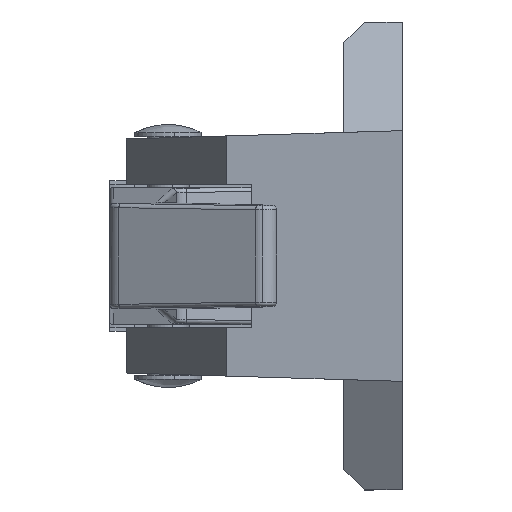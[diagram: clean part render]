
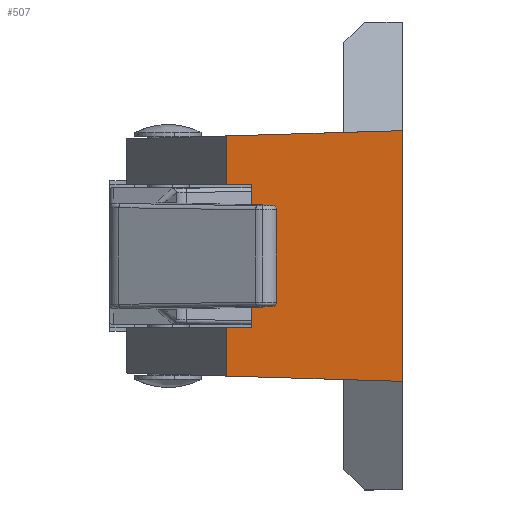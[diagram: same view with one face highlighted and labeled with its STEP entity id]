
A CAD part, left-side view. The second image highlights one B-rep face of the part: STEP entity #507.
In plain terms, the highlighted planar face has unit normal (-0.996, 0.09, 0).
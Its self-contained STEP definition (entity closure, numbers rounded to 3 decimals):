
#58 = LINE ( 'NONE', #2076, #3158 ) ;
#307 = VERTEX_POINT ( 'NONE', #4391 ) ;
#507 = ADVANCED_FACE ( 'NONE', ( #14954 ), #3067, .T. ) ;
#774 = EDGE_CURVE ( 'NONE', #12194, #15704, #10795, .T. ) ;
#1251 = EDGE_CURVE ( 'NONE', #3024, #307, #8461, .T. ) ;
#1354 = EDGE_CURVE ( 'NONE', #307, #1991, #14310, .T. ) ;
#1385 = ORIENTED_EDGE ( 'NONE', *, *, #4889, .T. ) ;
#1475 = EDGE_LOOP ( 'NONE', ( #5923, #1385, #4546, #3044, #1611, #5629, #9744, #4155 ) ) ;
#1611 = ORIENTED_EDGE ( 'NONE', *, *, #3830, .T. ) ;
#1733 = DIRECTION ( 'NONE',  ( -0.091, -0.996, 0. ) ) ;
#1977 = CARTESIAN_POINT ( 'NONE',  ( -33.364, 18., -8.5 ) ) ;
#1991 = VERTEX_POINT ( 'NONE', #1977 ) ;
#1996 = VERTEX_POINT ( 'NONE', #4645 ) ;
#2076 = CARTESIAN_POINT ( 'NONE',  ( -33.091, 21., -15. ) ) ;
#2213 = LINE ( 'NONE', #12782, #5727 ) ;
#2703 = CARTESIAN_POINT ( 'NONE',  ( -35., 0., 15. ) ) ;
#3024 = VERTEX_POINT ( 'NONE', #13037 ) ;
#3044 = ORIENTED_EDGE ( 'NONE', *, *, #1251, .F. ) ;
#3067 = PLANE ( 'NONE',  #15585 ) ;
#3124 = CARTESIAN_POINT ( 'NONE',  ( -34.713, 3.156, 0. ) ) ;
#3158 = VECTOR ( 'NONE', #16633, 1000. ) ;
#3506 = DIRECTION ( 'NONE',  ( 0.091, 0.996, 0. ) ) ;
#3830 = EDGE_CURVE ( 'NONE', #3024, #10785, #11997, .T. ) ;
#3897 = CARTESIAN_POINT ( 'NONE',  ( -35., 0., -15. ) ) ;
#4150 = VECTOR ( 'NONE', #5290, 1000. ) ;
#4155 = ORIENTED_EDGE ( 'NONE', *, *, #14918, .F. ) ;
#4391 = CARTESIAN_POINT ( 'NONE',  ( -33.091, 21., -8.5 ) ) ;
#4546 = ORIENTED_EDGE ( 'NONE', *, *, #1354, .F. ) ;
#4645 = CARTESIAN_POINT ( 'NONE',  ( -33.091, 21., 8.5 ) ) ;
#4889 = EDGE_CURVE ( 'NONE', #10776, #1991, #17153, .T. ) ;
#4997 = EDGE_CURVE ( 'NONE', #10776, #1996, #2213, .T. ) ;
#5290 = DIRECTION ( 'NONE',  ( -0.09, -0.995, 0.03 ) ) ;
#5524 = DIRECTION ( 'NONE',  ( -0.091, -0.996, 0. ) ) ;
#5629 = ORIENTED_EDGE ( 'NONE', *, *, #9036, .T. ) ;
#5727 = VECTOR ( 'NONE', #3506, 1000. ) ;
#5879 = DIRECTION ( 'NONE',  ( 0., 0., -1. ) ) ;
#5923 = ORIENTED_EDGE ( 'NONE', *, *, #4997, .F. ) ;
#6430 = DIRECTION ( 'NONE',  ( -0.09, -0.995, -0.03 ) ) ;
#6826 = CARTESIAN_POINT ( 'NONE',  ( -34.713, 3.156, -8.5 ) ) ;
#7860 = CARTESIAN_POINT ( 'NONE',  ( -32., 33., 14. ) ) ;
#8434 = VECTOR ( 'NONE', #6430, 1000. ) ;
#8461 = LINE ( 'NONE', #15988, #12415 ) ;
#9036 = EDGE_CURVE ( 'NONE', #10785, #15704, #9781, .T. ) ;
#9166 = CARTESIAN_POINT ( 'NONE',  ( -33.364, 18., 8.5 ) ) ;
#9295 = DIRECTION ( 'NONE',  ( 0., 0., 1. ) ) ;
#9744 = ORIENTED_EDGE ( 'NONE', *, *, #774, .F. ) ;
#9781 = LINE ( 'NONE', #13840, #12918 ) ;
#9883 = DIRECTION ( 'NONE',  ( 0., 0., 1. ) ) ;
#10515 = VECTOR ( 'NONE', #5879, 1000. ) ;
#10776 = VERTEX_POINT ( 'NONE', #9166 ) ;
#10785 = VERTEX_POINT ( 'NONE', #3897 ) ;
#10795 = LINE ( 'NONE', #7860, #4150 ) ;
#11010 = DIRECTION ( 'NONE',  ( -0.996, 0.091, 0. ) ) ;
#11711 = CARTESIAN_POINT ( 'NONE',  ( -32., 33., -14. ) ) ;
#11997 = LINE ( 'NONE', #11711, #8434 ) ;
#12194 = VERTEX_POINT ( 'NONE', #14832 ) ;
#12415 = VECTOR ( 'NONE', #9295, 1000. ) ;
#12541 = CARTESIAN_POINT ( 'NONE',  ( -33.364, 18., 0. ) ) ;
#12782 = CARTESIAN_POINT ( 'NONE',  ( -34.713, 3.156, 8.5 ) ) ;
#12918 = VECTOR ( 'NONE', #9883, 1000. ) ;
#13037 = CARTESIAN_POINT ( 'NONE',  ( -33.091, 21., -14.364 ) ) ;
#13840 = CARTESIAN_POINT ( 'NONE',  ( -35., 0., -15. ) ) ;
#13868 = VECTOR ( 'NONE', #5524, 1000. ) ;
#14310 = LINE ( 'NONE', #6826, #13868 ) ;
#14832 = CARTESIAN_POINT ( 'NONE',  ( -33.091, 21., 14.364 ) ) ;
#14918 = EDGE_CURVE ( 'NONE', #1996, #12194, #58, .T. ) ;
#14954 = FACE_OUTER_BOUND ( 'NONE', #1475, .T. ) ;
#15585 = AXIS2_PLACEMENT_3D ( 'NONE', #3124, #11010, #1733 ) ;
#15704 = VERTEX_POINT ( 'NONE', #2703 ) ;
#15988 = CARTESIAN_POINT ( 'NONE',  ( -33.091, 21., -15. ) ) ;
#16633 = DIRECTION ( 'NONE',  ( 0., 0., 1. ) ) ;
#17153 = LINE ( 'NONE', #12541, #10515 ) ;
